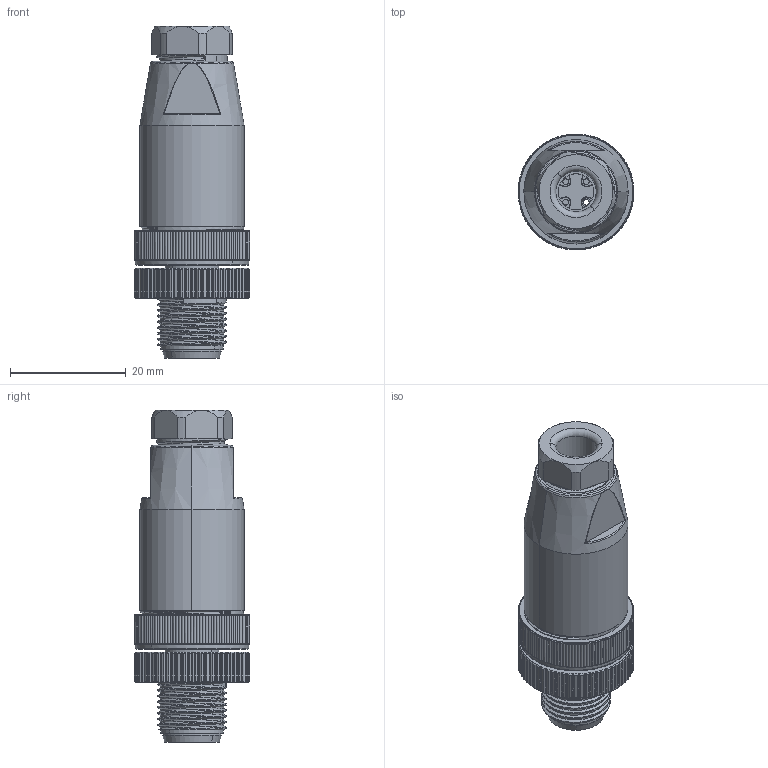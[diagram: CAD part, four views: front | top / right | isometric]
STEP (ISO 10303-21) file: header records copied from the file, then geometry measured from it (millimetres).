
FILE_DESCRIPTION((''),'2;1');
FILE_NAME('XC-M12-WK-PG7','2025-06-20T16:42:04',('lyj'),(''),'CREO PARAMETRIC BY PTC INC, 2019010','CREO PARAMETRIC BY PTC INC, 2019010','');
FILE_SCHEMA(('CONFIG_CONTROL_DESIGN'));
Products named in the file (1): XC-M12-WK-PG7
Bounding box: 20 x 20 x 57.31 mm (x, y, z)
Volume: 7744.5 mm3; surface area: 10954.5 mm2
Topology: 1 solids, 10 shells, 1382 faces, 3693 edges, 2365 vertices
Faces by surface type: cylinder 579, cone 393, plane 318, bspline 48, extrusion 28, torus 10, sphere 6
Entity records: 69438 total; most frequent: CARTESIAN_POINT 36667, ORIENTED_EDGE 7374, DIRECTION 6193, EDGE_CURVE 3687, AXIS2_PLACEMENT_3D 2482, VERTEX_POINT 2365, EDGE_LOOP 1452, FACE_OUTER_BOUND 1382
